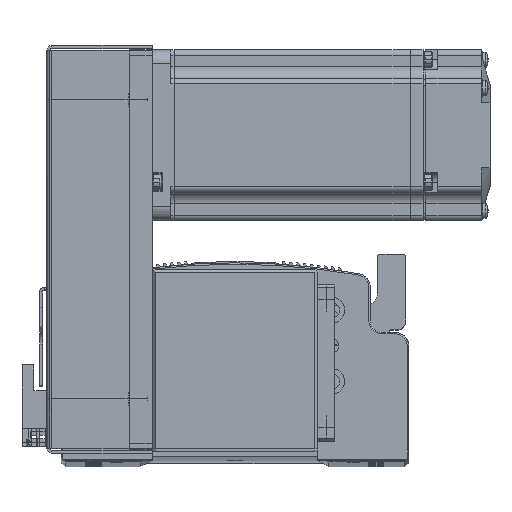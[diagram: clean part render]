
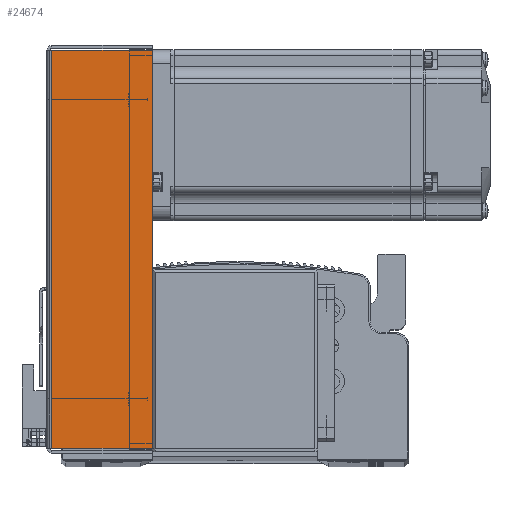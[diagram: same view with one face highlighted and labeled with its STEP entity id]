
A CAD part, top view. The second image highlights one B-rep face of the part: STEP entity #24674.
In plain terms, the highlighted planar face has unit normal (0, 0, 1) as drawn and (0, 0, -1) by its records, which use the part's own axes.
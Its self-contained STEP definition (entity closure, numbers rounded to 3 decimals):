
#24674 = ADVANCED_FACE ( 'NONE', ( #28259 ), #49276, .F. ) ;
#25619 = EDGE_LOOP ( 'NONE', ( #73289, #73291, #73182, #73217 ) ) ;
#28259 = FACE_OUTER_BOUND ( 'NONE', #25619, .T. ) ;
#34493 = VERTEX_POINT ( 'NONE', #46006 ) ;
#34555 = VERTEX_POINT ( 'NONE', #45980 ) ;
#34570 = VERTEX_POINT ( 'NONE', #46008 ) ;
#34574 = VERTEX_POINT ( 'NONE', #45982 ) ;
#36104 = AXIS2_PLACEMENT_3D ( 'NONE', #49294, #49279, #49317 ) ;
#39557 = CARTESIAN_POINT ( 'NONE',  ( 0., 36., -33.5 ) ) ;
#39616 = DIRECTION ( 'NONE',  ( 1., 0., 0. ) ) ;
#39620 = CARTESIAN_POINT ( 'NONE',  ( 69.793, 0., -33.5 ) ) ;
#39624 = DIRECTION ( 'NONE',  ( 0., 1., 0. ) ) ;
#39641 = DIRECTION ( 'NONE',  ( 1., 0., 0. ) ) ;
#39664 = CARTESIAN_POINT ( 'NONE',  ( 71.5, 0.737, -33.5 ) ) ;
#39709 = DIRECTION ( 'NONE',  ( 0., 1., 0. ) ) ;
#39795 = CARTESIAN_POINT ( 'NONE',  ( -69.793, 0., -33.5 ) ) ;
#42704 = LINE ( 'NONE', #39557, #42774 ) ;
#42774 = VECTOR ( 'NONE', #39641, 1000. ) ;
#42850 = LINE ( 'NONE', #39795, #42998 ) ;
#42948 = VECTOR ( 'NONE', #39616, 1000. ) ;
#42976 = VECTOR ( 'NONE', #39624, 1000. ) ;
#42995 = LINE ( 'NONE', #39620, #42976 ) ;
#42998 = VECTOR ( 'NONE', #39709, 1000. ) ;
#43033 = LINE ( 'NONE', #39664, #42948 ) ;
#45498 = EDGE_CURVE ( 'NONE', #34574, #34555, #42704, .T. ) ;
#45509 = EDGE_CURVE ( 'NONE', #34493, #34570, #43033, .T. ) ;
#45510 = EDGE_CURVE ( 'NONE', #34570, #34555, #42995, .T. ) ;
#45523 = EDGE_CURVE ( 'NONE', #34493, #34574, #42850, .T. ) ;
#45980 = CARTESIAN_POINT ( 'NONE',  ( 69.793, 36., -33.5 ) ) ;
#45982 = CARTESIAN_POINT ( 'NONE',  ( -69.793, 36., -33.5 ) ) ;
#46006 = CARTESIAN_POINT ( 'NONE',  ( -69.793, 0.737, -33.5 ) ) ;
#46008 = CARTESIAN_POINT ( 'NONE',  ( 69.793, 0.737, -33.5 ) ) ;
#49276 = PLANE ( 'NONE',  #36104 ) ;
#49279 = DIRECTION ( 'NONE',  ( 0., 0., 1. ) ) ;
#49294 = CARTESIAN_POINT ( 'NONE',  ( 0., 0., -33.5 ) ) ;
#49317 = DIRECTION ( 'NONE',  ( 0., -1., 0. ) ) ;
#73182 = ORIENTED_EDGE ( 'NONE', *, *, #45498, .T. ) ;
#73217 = ORIENTED_EDGE ( 'NONE', *, *, #45510, .F. ) ;
#73289 = ORIENTED_EDGE ( 'NONE', *, *, #45509, .F. ) ;
#73291 = ORIENTED_EDGE ( 'NONE', *, *, #45523, .T. ) ;
